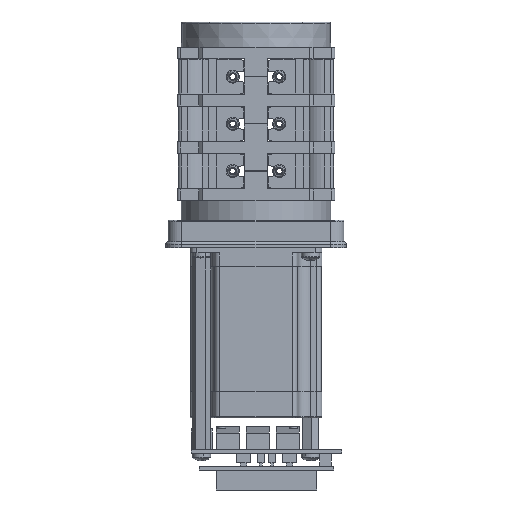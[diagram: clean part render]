
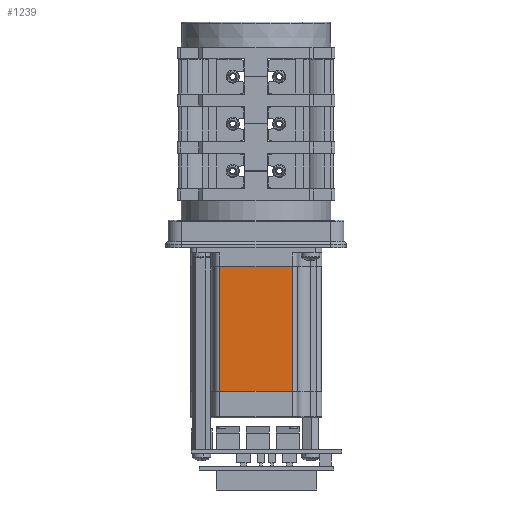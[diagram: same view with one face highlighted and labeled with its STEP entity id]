
A CAD part, front view. The second image highlights one B-rep face of the part: STEP entity #1239.
In plain terms, the highlighted planar face has unit normal (0, -1, 0).
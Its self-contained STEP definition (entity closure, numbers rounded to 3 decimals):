
#215 = VECTOR ( 'NONE', #29958, 1000. ) ;
#1239 = ADVANCED_FACE ( 'NONE', ( #34550 ), #31943, .T. ) ;
#2322 = EDGE_CURVE ( 'NONE', #33596, #6656, #25322, .T. ) ;
#6656 = VERTEX_POINT ( 'NONE', #16492 ) ;
#6777 = DIRECTION ( 'NONE',  ( 0., -1., 0. ) ) ;
#7056 = ORIENTED_EDGE ( 'NONE', *, *, #39327, .F. ) ;
#11419 = LINE ( 'NONE', #25749, #215 ) ;
#12835 = VECTOR ( 'NONE', #22700, 1000. ) ;
#13873 = VERTEX_POINT ( 'NONE', #19936 ) ;
#14947 = CARTESIAN_POINT ( 'NONE',  ( 15.57, -28.3, -95.1 ) ) ;
#15129 = VECTOR ( 'NONE', #53793, 1000. ) ;
#16492 = CARTESIAN_POINT ( 'NONE',  ( -15.57, -28.3, -95.1 ) ) ;
#17815 = EDGE_LOOP ( 'NONE', ( #43387, #39689, #7056, #53623 ) ) ;
#19936 = CARTESIAN_POINT ( 'NONE',  ( 15.57, -28.3, -41.1 ) ) ;
#20336 = CARTESIAN_POINT ( 'NONE',  ( 15.57, -28.3, -41.1 ) ) ;
#22700 = DIRECTION ( 'NONE',  ( 0., 0., -1. ) ) ;
#23048 = AXIS2_PLACEMENT_3D ( 'NONE', #52778, #6777, #36146 ) ;
#25322 = LINE ( 'NONE', #51923, #12835 ) ;
#25749 = CARTESIAN_POINT ( 'NONE',  ( 15.57, -28.3, -95.1 ) ) ;
#26294 = LINE ( 'NONE', #20336, #15129 ) ;
#27892 = VECTOR ( 'NONE', #39308, 1000. ) ;
#29958 = DIRECTION ( 'NONE',  ( -1., 0., 0. ) ) ;
#31260 = CARTESIAN_POINT ( 'NONE',  ( -15.57, -28.3, -41.1 ) ) ;
#31943 = PLANE ( 'NONE',  #23048 ) ;
#33596 = VERTEX_POINT ( 'NONE', #31260 ) ;
#34550 = FACE_OUTER_BOUND ( 'NONE', #17815, .T. ) ;
#35177 = VERTEX_POINT ( 'NONE', #14947 ) ;
#36146 = DIRECTION ( 'NONE',  ( 1., 0., 0. ) ) ;
#39308 = DIRECTION ( 'NONE',  ( 0., 0., -1. ) ) ;
#39327 = EDGE_CURVE ( 'NONE', #35177, #6656, #11419, .T. ) ;
#39689 = ORIENTED_EDGE ( 'NONE', *, *, #2322, .T. ) ;
#43387 = ORIENTED_EDGE ( 'NONE', *, *, #47018, .T. ) ;
#47018 = EDGE_CURVE ( 'NONE', #13873, #33596, #26294, .T. ) ;
#50082 = EDGE_CURVE ( 'NONE', #13873, #35177, #50110, .T. ) ;
#50110 = LINE ( 'NONE', #51929, #27892 ) ;
#51923 = CARTESIAN_POINT ( 'NONE',  ( -15.57, -28.3, 50.01 ) ) ;
#51929 = CARTESIAN_POINT ( 'NONE',  ( 15.57, -28.3, 50.01 ) ) ;
#52778 = CARTESIAN_POINT ( 'NONE',  ( 15.57, -28.3, 50.01 ) ) ;
#53623 = ORIENTED_EDGE ( 'NONE', *, *, #50082, .F. ) ;
#53793 = DIRECTION ( 'NONE',  ( -1., 0., 0. ) ) ;
